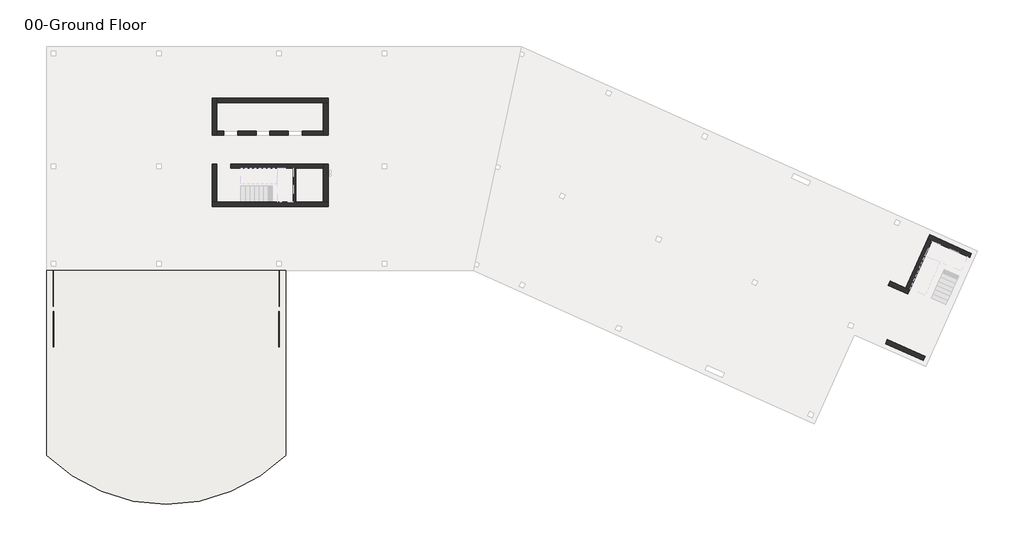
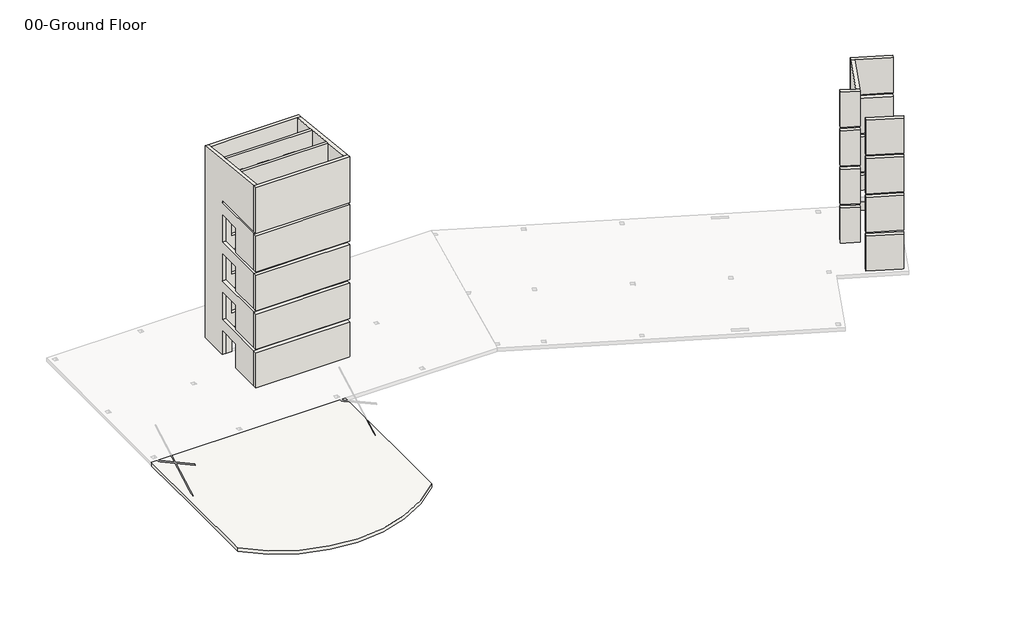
# One storey, part 1 of 2: 11 walls, 1 slab.
"""IFC4 building model written with IfcOpenShell, lengths in millimetres."""

from ifc_helpers import new_model, si_unit, frame, origin, origin_with_axes, place, context, project, spatial, polyline, circle_curve, outline, extrude, faceted_brep, element, save
from ifc_brep_helpers import plane_surface, cylinder_surface, advanced_brep

model = new_model("IFC4")

# Units and contexts
model_context = context("Model", 3, world=origin())
ifc_project = project(units=[si_unit("LENGTHUNIT", "METRE", prefix="MILLI")], contexts=[model_context])

# Site, building, storey
site = spatial("IfcSite", under=ifc_project)
building = spatial("IfcBuilding", under=site)
storey = spatial("IfcBuildingStorey", under=building, Name="00-Ground Floor", Elevation=0.0)

# Slab
placement = place(None, origin())
element("IfcSlab", 1, ObjectType="RC Slab 12\"", at=placement, inside=storey, context=model_context, shape_type="AdvancedBrep", body=[
    advanced_brep(
    [(15455.9, -26723.3402351, -304.8), (-457.2, -26723.3402351, -304.8), (-457.2, -20002.5, -304.8), (-457.2, -14452.6, -304.8), (15455.9, -14452.6, -304.8), (15455.9, -20002.5, -304.8), (15455.9, -26723.3402351, 0.0), (15455.9, -14452.6, 0.0), (-457.2, -14452.6, 0.0), (-457.2, -26723.3402351, 0.0)],
    [
        (0, 1, circle_curve(frame((7499.35, -18686.6508475, -304.8), z_axis=(0.0, 0.0, -1.0), x_axis=(1.0, 0.0, 0.0)), 11309.0699979)),
        (1, 2),
        (2, 3),
        (3, 4),
        (4, 5),
        (5, 0),
        (6, 7),
        (7, 8),
        (8, 9),
        (9, 6, circle_curve(frame((7499.35, -18686.6508475, 0.0), z_axis=(0.0, 0.0, 1.0), x_axis=(1.0, 0.0, 0.0)), 11309.0699979)),
        (1, 9),
        (8, 3),
        (7, 4),
        (6, 0),
    ],
    [
        plane_surface(frame((18808.4199979, -18686.6508475, -304.8), z_axis=(0.0, 0.0, -1.0), x_axis=(0.0, -1.0, 0.0))),
        plane_surface(frame((18808.4199979, -18686.6508475, 0.0), z_axis=(0.0, 0.0, 1.0), x_axis=(0.0, 1.0, 0.0))),
        plane_surface(frame((-457.2, -26723.3402351, -304.8), z_axis=(-1.0, 0.0, 0.0), x_axis=(0.0, 0.0, 1.0))),
        plane_surface(frame((-457.2, -14452.6, -304.8), z_axis=(0.0, 1.0, 0.0), x_axis=(0.0, 0.0, 1.0))),
        plane_surface(frame((15455.9, -14452.6, -304.8), z_axis=(1.0, 0.0, 0.0), x_axis=(0.0, 0.0, 1.0))),
        cylinder_surface(frame((7499.35, -18686.6508475, 0.0), z_axis=(0.0, 0.0, -1.0), x_axis=(1.0, 0.0, 0.0)), 11309.0699979),
    ],
    [
        (0, [[1, 2, 3, 4, 5, 6]]),
        (1, [[7, 8, 9, 10]]),
        (2, [[-3, -2, 11, -9, 12]]),
        (3, [[-4, -12, -8, 13]]),
        (4, [[-6, -5, -13, -7, 14]]),
        (5, [[-1, -14, -10, -11]]),
    ],
),
])

# Walls
element("IfcWall", 2, ObjectType="6\" Blockwork with render", at=placement, inside=storey, context=model_context, shape_type="SweptSolid", body=[
    extrude(outline(polyline([(16103.6, -7632.7), (16103.6, -9893.3), (15951.2, -9893.3), (15951.2, -7632.7), (16103.6, -7632.7)])), origin_with_axes(), (0.0, 0.0, 1.0), 3048.0),
])
element("IfcWall", 3, ObjectType="RC Wall 10\"", at=placement, inside=storey, context=model_context, shape_type="Brep", body=[
    faceted_brep([(17945.1, -5422.9, 16899.0824764), (10858.5, -5422.9, 16899.0824764), (10858.5, -5422.9, 13411.2), (10858.5, -5422.9, 13208.0), (10858.5, -5422.9, 12192.0), (10858.5, -5422.9, 10058.4), (10858.5, -5422.9, 9753.6), (10858.5, -5422.9, 8839.2), (10858.5, -5422.9, 6705.6), (10858.5, -5422.9, 6400.8), (10858.5, -5422.9, 5486.4), (10858.5, -5422.9, 3352.8), (10858.5, -5422.9, 3048.0), (10858.5, -5422.9, 2133.6), (10858.5, -5422.9, 0.0), (11328.4, -5422.9, 0.0), (11328.4, -5422.9, 2133.6), (12242.8, -5422.9, 2133.6), (12242.8, -5422.9, 0.0), (13474.7, -5422.9, 0.0), (13474.7, -5422.9, 2133.6), (14389.1, -5422.9, 2133.6), (14389.1, -5422.9, 0.0), (15608.3, -5422.9, 0.0), (15608.3, -5422.9, 2133.6), (16522.7, -5422.9, 2133.6), (16522.7, -5422.9, 0.0), (17945.1, -5422.9, 0.0), (17945.1, -5422.9, 2133.6), (17945.1, -5422.9, 3048.0), (17005.3, -5422.9, 3048.0), (17005.3, -5422.9, 3352.8), (17945.1, -5422.9, 3352.8), (17945.1, -5422.9, 5486.4), (17945.1, -5422.9, 6400.8), (17005.3, -5422.9, 6400.8), (17005.3, -5422.9, 6705.6), (17945.1, -5422.9, 6705.6), (17945.1, -5422.9, 8839.2), (17945.1, -5422.9, 9753.6), (17005.3, -5422.9, 9753.6), (17005.3, -5422.9, 10058.4), (17945.1, -5422.9, 10058.4), (17945.1, -5422.9, 12192.0), (17945.1, -5422.9, 13208.0), (17005.3, -5422.9, 13208.0), (17005.3, -5422.9, 13411.2), (17945.1, -5422.9, 13411.2), (17945.1, -5422.9, 15544.8), (15608.3, -5422.9, 3352.8), (15608.3, -5422.9, 5486.4), (16522.7, -5422.9, 5486.4), (16522.7, -5422.9, 3352.8), (13474.7, -5422.9, 3352.8), (13474.7, -5422.9, 5486.4), (14389.1, -5422.9, 5486.4), (14389.1, -5422.9, 3352.8), (11328.4, -5422.9, 3352.8), (11328.4, -5422.9, 5486.4), (12242.8, -5422.9, 5486.4), (12242.8, -5422.9, 3352.8), (15608.3, -5422.9, 6705.6), (15608.3, -5422.9, 8839.2), (16522.7, -5422.9, 8839.2), (16522.7, -5422.9, 6705.6), (13474.7, -5422.9, 6705.6), (13474.7, -5422.9, 8839.2), (14389.1, -5422.9, 8839.2), (14389.1, -5422.9, 6705.6), (11328.4, -5422.9, 6705.6), (11328.4, -5422.9, 8839.2), (12242.8, -5422.9, 8839.2), (12242.8, -5422.9, 6705.6), (15608.3, -5422.9, 10058.4), (15608.3, -5422.9, 12192.0), (16522.7, -5422.9, 12192.0), (16522.7, -5422.9, 10058.4), (13474.7, -5422.9, 10058.4), (13474.7, -5422.9, 12192.0), (14389.1, -5422.9, 12192.0), (14389.1, -5422.9, 10058.4), (11328.4, -5422.9, 10058.4), (11328.4, -5422.9, 12192.0), (12242.8, -5422.9, 12192.0), (12242.8, -5422.9, 10058.4), (15608.3, -5422.9, 13411.2), (15608.3, -5422.9, 15544.8), (16522.7, -5422.9, 15544.8), (16522.7, -5422.9, 13411.2), (13474.7, -5422.9, 13411.2), (13474.7, -5422.9, 15544.8), (14389.1, -5422.9, 15544.8), (14389.1, -5422.9, 13411.2), (11328.4, -5422.9, 13411.2), (11328.4, -5422.9, 15544.8), (12242.8, -5422.9, 15544.8), (12242.8, -5422.9, 13411.2), (10858.5, -5168.9, 0.0), (10858.5, -5168.9, 16872.3860006), (12738.1, -5168.9, 16872.3860006), (12992.1, -5168.9, 16872.3860006), (14871.7, -5168.9, 16872.3860006), (15125.7, -5168.9, 16872.3860006), (17945.1, -5168.9, 16872.3860006), (17945.1, -5168.9, 13411.2), (17005.3, -5168.9, 13411.2), (17005.3, -5168.9, 13208.0), (17945.1, -5168.9, 13208.0), (17945.1, -5168.9, 10058.4), (17005.3, -5168.9, 10058.4), (17005.3, -5168.9, 9753.6), (17945.1, -5168.9, 9753.6), (17945.1, -5168.9, 6705.6), (17005.3, -5168.9, 6705.6), (17005.3, -5168.9, 6400.8), (17945.1, -5168.9, 6400.8), (17945.1, -5168.9, 3352.8), (17005.3, -5168.9, 3352.8), (17005.3, -5168.9, 3048.0), (17945.1, -5168.9, 3048.0), (17945.1, -5168.9, 0.0), (16522.7, -5168.9, 0.0), (16522.7, -5168.9, 2133.6), (15608.3, -5168.9, 2133.6), (15608.3, -5168.9, 0.0), (15125.7, -5168.9, 0.0), (14871.7, -5168.9, 0.0), (14389.1, -5168.9, 0.0), (14389.1, -5168.9, 2133.6), (13474.7, -5168.9, 2133.6), (13474.7, -5168.9, 0.0), (12992.1, -5168.9, 0.0), (12738.1, -5168.9, 0.0), (12242.8, -5168.9, 0.0), (12242.8, -5168.9, 2133.6), (11328.4, -5168.9, 2133.6), (11328.4, -5168.9, 0.0), (15608.3, -5168.9, 5486.4), (15608.3, -5168.9, 3352.8), (16522.7, -5168.9, 3352.8), (16522.7, -5168.9, 5486.4), (13474.7, -5168.9, 5486.4), (13474.7, -5168.9, 3352.8), (14389.1, -5168.9, 3352.8), (14389.1, -5168.9, 5486.4), (11328.4, -5168.9, 5486.4), (11328.4, -5168.9, 3352.8), (12242.8, -5168.9, 3352.8), (12242.8, -5168.9, 5486.4), (15608.3, -5168.9, 8839.2), (15608.3, -5168.9, 6705.6), (16522.7, -5168.9, 6705.6), (16522.7, -5168.9, 8839.2), (13474.7, -5168.9, 8839.2), (13474.7, -5168.9, 6705.6), (14389.1, -5168.9, 6705.6), (14389.1, -5168.9, 8839.2), (11328.4, -5168.9, 8839.2), (11328.4, -5168.9, 6705.6), (12242.8, -5168.9, 6705.6), (12242.8, -5168.9, 8839.2), (15608.3, -5168.9, 12192.0), (15608.3, -5168.9, 10058.4), (16522.7, -5168.9, 10058.4), (16522.7, -5168.9, 12192.0), (13474.7, -5168.9, 12192.0), (13474.7, -5168.9, 10058.4), (14389.1, -5168.9, 10058.4), (14389.1, -5168.9, 12192.0), (11328.4, -5168.9, 12192.0), (11328.4, -5168.9, 10058.4), (12242.8, -5168.9, 10058.4), (12242.8, -5168.9, 12192.0), (15608.3, -5168.9, 15544.8), (15608.3, -5168.9, 13411.2), (16522.7, -5168.9, 13411.2), (16522.7, -5168.9, 15544.8), (13474.7, -5168.9, 15544.8), (13474.7, -5168.9, 13411.2), (14389.1, -5168.9, 13411.2), (14389.1, -5168.9, 15544.8), (11328.4, -5168.9, 15544.8), (11328.4, -5168.9, 13411.2), (12242.8, -5168.9, 13411.2), (12242.8, -5168.9, 15544.8)], [[[0, 1, 2, 3, 4, 5, 6, 7, 8, 9, 10, 11, 12, 13, 14, 15, 16, 17, 18, 19, 20, 21, 22, 23, 24, 25, 26, 27, 28, 29, 30, 31, 32, 33, 34, 35, 36, 37, 38, 39, 40, 41, 42, 43, 44, 45, 46, 47, 48], [49, 50, 51, 52], [53, 54, 55, 56], [57, 58, 59, 60], [61, 62, 63, 64], [65, 66, 67, 68], [69, 70, 71, 72], [73, 74, 75, 76], [77, 78, 79, 80], [81, 82, 83, 84], [85, 86, 87, 88], [89, 90, 91, 92], [93, 94, 95, 96]], [[97, 98, 99, 100, 101, 102, 103, 104, 105, 106, 107, 108, 109, 110, 111, 112, 113, 114, 115, 116, 117, 118, 119, 120, 121, 122, 123, 124, 125, 126, 127, 128, 129, 130, 131, 132, 133, 134, 135, 136], [137, 138, 139, 140], [141, 142, 143, 144], [145, 146, 147, 148], [149, 150, 151, 152], [153, 154, 155, 156], [157, 158, 159, 160], [161, 162, 163, 164], [165, 166, 167, 168], [169, 170, 171, 172], [173, 174, 175, 176], [177, 178, 179, 180], [181, 182, 183, 184]], [[14, 97, 136, 15]], [[120, 27, 26, 121]], [[18, 133, 132, 131, 130, 19]], [[22, 127, 126, 125, 124, 23]], [[98, 97, 14, 13, 12, 11, 10, 9, 8, 7, 6, 5, 4, 3, 2, 1]], [[27, 120, 119, 29, 28]], [[103, 0, 48, 47, 104]], [[107, 44, 43, 42, 108]], [[111, 39, 38, 37, 112]], [[115, 34, 33, 32, 116]], [[1, 0, 103, 102, 101, 100, 99, 98]], [[136, 135, 16, 15]], [[134, 133, 18, 17]], [[135, 134, 17, 16]], [[130, 129, 20, 19]], [[128, 127, 22, 21]], [[129, 128, 21, 20]], [[124, 123, 24, 23]], [[122, 121, 26, 25]], [[123, 122, 25, 24]], [[138, 137, 50, 49]], [[139, 138, 49, 52]], [[140, 139, 52, 51]], [[137, 140, 51, 50]], [[142, 141, 54, 53]], [[143, 142, 53, 56]], [[144, 143, 56, 55]], [[141, 144, 55, 54]], [[146, 145, 58, 57]], [[147, 146, 57, 60]], [[148, 147, 60, 59]], [[145, 148, 59, 58]], [[150, 149, 62, 61]], [[151, 150, 61, 64]], [[152, 151, 64, 63]], [[149, 152, 63, 62]], [[154, 153, 66, 65]], [[155, 154, 65, 68]], [[156, 155, 68, 67]], [[153, 156, 67, 66]], [[158, 157, 70, 69]], [[159, 158, 69, 72]], [[160, 159, 72, 71]], [[157, 160, 71, 70]], [[162, 161, 74, 73]], [[163, 162, 73, 76]], [[164, 163, 76, 75]], [[161, 164, 75, 74]], [[166, 165, 78, 77]], [[167, 166, 77, 80]], [[168, 167, 80, 79]], [[165, 168, 79, 78]], [[170, 169, 82, 81]], [[171, 170, 81, 84]], [[172, 171, 84, 83]], [[169, 172, 83, 82]], [[174, 173, 86, 85]], [[175, 174, 85, 88]], [[176, 175, 88, 87]], [[173, 176, 87, 86]], [[178, 177, 90, 89]], [[179, 178, 89, 92]], [[180, 179, 92, 91]], [[177, 180, 91, 90]], [[182, 181, 94, 93]], [[183, 182, 93, 96]], [[184, 183, 96, 95]], [[181, 184, 95, 94]], [[106, 45, 44, 107]], [[46, 105, 104, 47]], [[45, 106, 105, 46]], [[110, 40, 39, 111]], [[41, 109, 108, 42]], [[40, 110, 109, 41]], [[114, 35, 34, 115]], [[36, 113, 112, 37]], [[35, 114, 113, 36]], [[118, 30, 29, 119]], [[31, 117, 116, 32]], [[30, 118, 117, 31]]]),
])
element("IfcWall", 4, ObjectType="RC Wall 10\"", at=placement, inside=storey, context=model_context, shape_type="Brep", body=[
    faceted_brep([(17945.1, -7632.7, 17131.3418155), (10858.5, -7632.7, 17131.3418155), (10858.5, -7632.7, 15544.8), (11772.9, -7632.7, 15544.8), (11772.9, -7632.7, 13411.2), (15951.2, -7632.7, 13411.2), (16103.6, -7632.7, 13411.2), (17945.1, -7632.7, 13411.2), (10858.5, -7378.7, 17104.6453397), (17945.1, -7378.7, 17104.6453397), (17945.1, -7378.7, 15544.8), (17945.1, -7378.7, 13411.2), (11772.9, -7378.7, 13411.2), (11772.9, -7378.7, 15544.8), (10858.5, -7378.7, 15544.8)], [[[0, 1, 2, 3, 4, 5, 6, 7]], [[8, 9, 10, 11, 12, 13, 14]], [[1, 8, 14, 2]], [[9, 0, 7, 11, 10]], [[1, 0, 9, 8]], [[13, 12, 4, 3]], [[14, 13, 3, 2]], [[7, 6, 5, 4, 12, 11]]]),
    faceted_brep([(11772.9, -7632.7, 0.0), (15951.2, -7632.7, 0.0), (16103.6, -7632.7, 0.0), (17945.1, -7632.7, 0.0), (17945.1, -7632.7, 3048.0), (16103.6, -7632.7, 3048.0), (15951.2, -7632.7, 3048.0), (10858.5, -7632.7, 3048.0), (10858.5, -7632.7, 2133.6), (11772.9, -7632.7, 2133.6), (17945.1, -7378.7, 0.0), (11772.9, -7378.7, 0.0), (11772.9, -7378.7, 2133.6), (10858.5, -7378.7, 2133.6), (10858.5, -7378.7, 3048.0), (17945.1, -7378.7, 3048.0), (17945.1, -7378.7, 2133.6)], [[[0, 1, 2, 3, 4, 5, 6, 7, 8, 9]], [[10, 11, 12, 13, 14, 15, 16]], [[10, 3, 2, 1, 0, 11]], [[13, 8, 7, 14]], [[3, 10, 16, 15, 4]], [[9, 12, 11, 0]], [[12, 9, 8, 13]], [[7, 6, 5, 4, 15, 14]]]),
    faceted_brep([(11772.9, -7632.7, 5486.4), (11772.9, -7632.7, 3352.8), (15951.2, -7632.7, 3352.8), (16103.6, -7632.7, 3352.8), (17945.1, -7632.7, 3352.8), (17945.1, -7632.7, 6400.8), (16103.6, -7632.7, 6400.8), (15951.2, -7632.7, 6400.8), (10858.5, -7632.7, 6400.8), (10858.5, -7632.7, 5486.4), (11772.9, -7378.7, 3352.8), (11772.9, -7378.7, 5486.4), (10858.5, -7378.7, 5486.4), (10858.5, -7378.7, 6400.8), (17945.1, -7378.7, 6400.8), (17945.1, -7378.7, 5486.4), (17945.1, -7378.7, 3352.8)], [[[0, 1, 2, 3, 4, 5, 6, 7, 8, 9]], [[10, 11, 12, 13, 14, 15, 16]], [[12, 9, 8, 13]], [[4, 16, 15, 14, 5]], [[11, 10, 1, 0]], [[12, 11, 0, 9]], [[4, 3, 2, 1, 10, 16]], [[8, 7, 6, 5, 14, 13]]]),
    faceted_brep([(11772.9, -7632.7, 8839.2), (11772.9, -7632.7, 6705.6), (15951.2, -7632.7, 6705.6), (16103.6, -7632.7, 6705.6), (17945.1, -7632.7, 6705.6), (17945.1, -7632.7, 9753.6), (16103.6, -7632.7, 9753.6), (15951.2, -7632.7, 9753.6), (10858.5, -7632.7, 9753.6), (10858.5, -7632.7, 8839.2), (11772.9, -7378.7, 6705.6), (11772.9, -7378.7, 8839.2), (10858.5, -7378.7, 8839.2), (10858.5, -7378.7, 9753.6), (17945.1, -7378.7, 9753.6), (17945.1, -7378.7, 8839.2), (17945.1, -7378.7, 6705.6)], [[[0, 1, 2, 3, 4, 5, 6, 7, 8, 9]], [[10, 11, 12, 13, 14, 15, 16]], [[12, 9, 8, 13]], [[4, 16, 15, 14, 5]], [[11, 10, 1, 0]], [[12, 11, 0, 9]], [[4, 3, 2, 1, 10, 16]], [[8, 7, 6, 5, 14, 13]]]),
    faceted_brep([(11772.9, -7632.7, 12192.0), (11772.9, -7632.7, 10058.4), (15951.2, -7632.7, 10058.4), (16103.6, -7632.7, 10058.4), (17945.1, -7632.7, 10058.4), (17945.1, -7632.7, 13208.0), (16103.6, -7632.7, 13208.0), (15951.2, -7632.7, 13208.0), (10858.5, -7632.7, 13208.0), (10858.5, -7632.7, 12192.0), (11772.9, -7378.7, 10058.4), (11772.9, -7378.7, 12192.0), (10858.5, -7378.7, 12192.0), (10858.5, -7378.7, 13208.0), (17945.1, -7378.7, 13208.0), (17945.1, -7378.7, 12192.0), (17945.1, -7378.7, 10058.4)], [[[0, 1, 2, 3, 4, 5, 6, 7, 8, 9]], [[10, 11, 12, 13, 14, 15, 16]], [[12, 9, 8, 13]], [[14, 5, 4, 16, 15]], [[11, 10, 1, 0]], [[12, 11, 0, 9]], [[8, 7, 6, 5, 14, 13]], [[4, 3, 2, 1, 10, 16]]]),
])
element("IfcWall", 5, ObjectType="RC Wall 12\"", at=placement, inside=storey, context=model_context, shape_type="Brep", body=[
    faceted_brep([(18249.9, -9893.3, 0.0), (17945.1, -9893.3, 0.0), (16103.6, -9893.3, 0.0), (15951.2, -9893.3, 0.0), (10858.5, -9893.3, 0.0), (10553.7, -9893.3, 0.0), (10553.7, -9893.3, 3048.0), (10858.5, -9893.3, 3048.0), (12446.0, -9893.3, 3048.0), (15951.2, -9893.3, 3048.0), (16103.6, -9893.3, 3048.0), (17945.1, -9893.3, 3048.0), (18249.9, -9893.3, 3048.0), (10553.7, -10198.1, 0.0), (18249.9, -10198.1, 0.0), (18249.9, -10198.1, 3048.0), (10553.7, -10198.1, 3048.0)], [[[0, 1, 2, 3, 4, 5, 6, 7, 8, 9, 10, 11, 12]], [[13, 14, 15, 16]], [[5, 4, 3, 2, 1, 0, 14, 13]], [[5, 13, 16, 6]], [[14, 0, 12, 15]], [[8, 7, 6, 16, 15, 12, 11, 10, 9]]]),
    faceted_brep([(10553.7, -9893.3, 17368.9404497), (10858.5, -9893.3, 17368.9404497), (17945.1, -9893.3, 17368.9404497), (18249.9, -9893.3, 17368.9404497), (18249.9, -9893.3, 13411.2), (17945.1, -9893.3, 13411.2), (16103.6, -9893.3, 13411.2), (15951.2, -9893.3, 13411.2), (12446.0, -9893.3, 13411.2), (10858.5, -9893.3, 13411.2), (10553.7, -9893.3, 13411.2), (18249.9, -10198.1, 17400.9762206), (10553.7, -10198.1, 17400.9762206), (10553.7, -10198.1, 13411.2), (18249.9, -10198.1, 13411.2)], [[[0, 1, 2, 3, 4, 5, 6, 7, 8, 9, 10]], [[11, 12, 13, 14]], [[12, 0, 10, 13]], [[3, 11, 14, 4]], [[3, 2, 1, 0, 12, 11]], [[10, 9, 8, 7, 6, 5, 4, 14, 13]]]),
    faceted_brep([(10553.7, -9893.3, 13208.0), (10858.5, -9893.3, 13208.0), (12446.0, -9893.3, 13208.0), (15951.2, -9893.3, 13208.0), (16103.6, -9893.3, 13208.0), (17945.1, -9893.3, 13208.0), (18249.9, -9893.3, 13208.0), (18249.9, -9893.3, 10058.4), (17945.1, -9893.3, 10058.4), (16103.6, -9893.3, 10058.4), (15951.2, -9893.3, 10058.4), (12446.0, -9893.3, 10058.4), (10858.5, -9893.3, 10058.4), (10553.7, -9893.3, 10058.4), (18249.9, -10198.1, 13208.0), (10553.7, -10198.1, 13208.0), (10553.7, -10198.1, 10058.4), (18249.9, -10198.1, 10058.4)], [[[0, 1, 2, 3, 4, 5, 6, 7, 8, 9, 10, 11, 12, 13]], [[14, 15, 16, 17]], [[15, 0, 13, 16]], [[6, 14, 17, 7]], [[2, 1, 0, 15, 14, 6, 5, 4, 3]], [[13, 12, 11, 10, 9, 8, 7, 17, 16]]]),
    faceted_brep([(10553.7, -9893.3, 9753.6), (10858.5, -9893.3, 9753.6), (12446.0, -9893.3, 9753.6), (15951.2, -9893.3, 9753.6), (16103.6, -9893.3, 9753.6), (17945.1, -9893.3, 9753.6), (18249.9, -9893.3, 9753.6), (18249.9, -9893.3, 6705.6), (17945.1, -9893.3, 6705.6), (16103.6, -9893.3, 6705.6), (15951.2, -9893.3, 6705.6), (12446.0, -9893.3, 6705.6), (10858.5, -9893.3, 6705.6), (10553.7, -9893.3, 6705.6), (18249.9, -10198.1, 9753.6), (10553.7, -10198.1, 9753.6), (10553.7, -10198.1, 6705.6), (18249.9, -10198.1, 6705.6)], [[[0, 1, 2, 3, 4, 5, 6, 7, 8, 9, 10, 11, 12, 13]], [[14, 15, 16, 17]], [[15, 0, 13, 16]], [[6, 14, 17, 7]], [[2, 1, 0, 15, 14, 6, 5, 4, 3]], [[13, 12, 11, 10, 9, 8, 7, 17, 16]]]),
    faceted_brep([(10553.7, -9893.3, 6400.8), (10858.5, -9893.3, 6400.8), (12446.0, -9893.3, 6400.8), (15951.2, -9893.3, 6400.8), (16103.6, -9893.3, 6400.8), (17945.1, -9893.3, 6400.8), (18249.9, -9893.3, 6400.8), (18249.9, -9893.3, 3352.8), (17945.1, -9893.3, 3352.8), (16103.6, -9893.3, 3352.8), (15951.2, -9893.3, 3352.8), (12446.0, -9893.3, 3352.8), (10858.5, -9893.3, 3352.8), (10553.7, -9893.3, 3352.8), (18249.9, -10198.1, 6400.8), (10553.7, -10198.1, 6400.8), (10553.7, -10198.1, 3352.8), (18249.9, -10198.1, 3352.8)], [[[0, 1, 2, 3, 4, 5, 6, 7, 8, 9, 10, 11, 12, 13]], [[14, 15, 16, 17]], [[15, 0, 13, 16]], [[6, 14, 17, 7]], [[2, 1, 0, 15, 14, 6, 5, 4, 3]], [[13, 12, 11, 10, 9, 8, 7, 17, 16]]]),
])
element("IfcWall", 6, ObjectType="RC Wall 12\"", at=placement, inside=storey, context=model_context, shape_type="Brep", body=[
    faceted_brep([(10858.5, -2984.5, 16642.7963091), (10858.5, -3289.3, 16674.83208), (10858.5, -5168.9, 16872.3860006), (10858.5, -5422.9, 16899.0824764), (10858.5, -7378.7, 17104.6453397), (10858.5, -7632.7, 17131.3418155), (10858.5, -9893.3, 17368.9404497), (10858.5, -9893.3, 13411.2), (10858.5, -5422.9, 13411.2), (10858.5, -5422.9, 13208.0), (10858.5, -9893.3, 13208.0), (10858.5, -9893.3, 10058.4), (10858.5, -7378.7, 10058.4), (10858.5, -7378.7, 12192.0), (10858.5, -5422.9, 12192.0), (10858.5, -5422.9, 9753.6), (10858.5, -9893.3, 9753.6), (10858.5, -9893.3, 6705.6), (10858.5, -7378.7, 6705.6), (10858.5, -7378.7, 8839.2), (10858.5, -5422.9, 8839.2), (10858.5, -5422.9, 6400.8), (10858.5, -9893.3, 6400.8), (10858.5, -9893.3, 3352.8), (10858.5, -7378.7, 3352.8), (10858.5, -7378.7, 5486.4), (10858.5, -5422.9, 5486.4), (10858.5, -5422.9, 3048.0), (10858.5, -9893.3, 3048.0), (10858.5, -9893.3, 0.0), (10858.5, -7378.7, 0.0), (10858.5, -7378.7, 2133.6), (10858.5, -5422.9, 2133.6), (10858.5, -5422.9, 0.0), (10858.5, -5168.9, 0.0), (10858.5, -3289.3, 0.0), (10858.5, -2984.5, 0.0), (10858.5, -2984.5, 3048.0), (10858.5, -2984.5, 3352.8), (10858.5, -2984.5, 6400.8), (10858.5, -2984.5, 6705.6), (10858.5, -2984.5, 9753.6), (10858.5, -2984.5, 10058.4), (10553.7, -9893.3, 17368.9404497), (10553.7, -2984.5, 16642.7963091), (10553.7, -2984.5, 10058.4), (10553.7, -2984.5, 9753.6), (10553.7, -2984.5, 6705.6), (10553.7, -2984.5, 6400.8), (10553.7, -2984.5, 3352.8), (10553.7, -2984.5, 3048.0), (10553.7, -2984.5, 0.0), (10553.7, -5422.9, 0.0), (10553.7, -5422.9, 2133.6), (10553.7, -7378.7, 2133.6), (10553.7, -7378.7, 0.0), (10553.7, -9893.3, 0.0), (10553.7, -9893.3, 3048.0), (10553.7, -5422.9, 3048.0), (10553.7, -5422.9, 3352.8), (10553.7, -5422.9, 5486.4), (10553.7, -7378.7, 5486.4), (10553.7, -7378.7, 3352.8), (10553.7, -9893.3, 3352.8), (10553.7, -9893.3, 6400.8), (10553.7, -5422.9, 6400.8), (10553.7, -5422.9, 6705.6), (10553.7, -5422.9, 8839.2), (10553.7, -7378.7, 8839.2), (10553.7, -7378.7, 6705.6), (10553.7, -9893.3, 6705.6), (10553.7, -9893.3, 9753.6), (10553.7, -5422.9, 9753.6), (10553.7, -5422.9, 10058.4), (10553.7, -5422.9, 12192.0), (10553.7, -7378.7, 12192.0), (10553.7, -7378.7, 10058.4), (10553.7, -9893.3, 10058.4), (10553.7, -9893.3, 13208.0), (10553.7, -5422.9, 13208.0), (10553.7, -5422.9, 13411.2), (10553.7, -9893.3, 13411.2)], [[[0, 1, 2, 3, 4, 5, 6, 7, 8, 9, 10, 11, 12, 13, 14, 15, 16, 17, 18, 19, 20, 21, 22, 23, 24, 25, 26, 27, 28, 29, 30, 31, 32, 33, 34, 35, 36, 37, 38, 39, 40, 41, 42]], [[43, 44, 45, 46, 47, 48, 49, 50, 51, 52, 53, 54, 55, 56, 57, 58, 59, 60, 61, 62, 63, 64, 65, 66, 67, 68, 69, 70, 71, 72, 73, 74, 75, 76, 77, 78, 79, 80, 81]], [[29, 56, 55, 30]], [[51, 36, 35, 34, 33, 52]], [[56, 29, 28, 57]], [[6, 43, 81, 7]], [[10, 78, 77, 11]], [[16, 71, 70, 17]], [[22, 64, 63, 23]], [[36, 51, 50, 49, 48, 47, 46, 45, 44, 0, 42, 41, 40, 39, 38, 37]], [[6, 5, 4, 3, 2, 1, 0, 44, 43]], [[33, 32, 53, 52]], [[31, 30, 55, 54]], [[32, 31, 54, 53]], [[26, 60, 59, 58, 27]], [[25, 24, 62, 61]], [[26, 25, 61, 60]], [[20, 67, 66, 65, 21]], [[19, 18, 69, 68]], [[20, 19, 68, 67]], [[14, 74, 73, 72, 15]], [[13, 12, 76, 75]], [[14, 13, 75, 74]], [[9, 79, 78, 10]], [[80, 8, 7, 81]], [[79, 9, 8, 80]], [[15, 72, 71, 16]], [[12, 11, 77, 76]], [[21, 65, 64, 22]], [[18, 17, 70, 69]], [[27, 58, 57, 28]], [[24, 23, 63, 62]]]),
])
element("IfcWall", 7, ObjectType="RC Wall 12\"", at=placement, inside=storey, context=model_context, shape_type="Brep", body=[
    faceted_brep([(10858.5, -3289.3, 0.0), (12738.1, -3289.3, 0.0), (12992.1, -3289.3, 0.0), (14871.7, -3289.3, 0.0), (15125.7, -3289.3, 0.0), (17945.1, -3289.3, 0.0), (18249.9, -3289.3, 0.0), (18249.9, -3289.3, 3048.0), (17945.1, -3289.3, 3048.0), (17005.3, -3289.3, 3048.0), (17005.3, -3289.3, 3352.8), (17945.1, -3289.3, 3352.8), (18249.9, -3289.3, 3352.8), (18249.9, -3289.3, 6400.8), (17945.1, -3289.3, 6400.8), (17005.3, -3289.3, 6400.8), (17005.3, -3289.3, 6705.6), (17945.1, -3289.3, 6705.6), (18249.9, -3289.3, 6705.6), (18249.9, -3289.3, 9753.6), (17945.1, -3289.3, 9753.6), (17005.3, -3289.3, 9753.6), (17005.3, -3289.3, 10058.4), (17945.1, -3289.3, 10058.4), (18249.9, -3289.3, 10058.4), (18249.9, -3289.3, 13208.0), (17945.1, -3289.3, 13208.0), (17005.3, -3289.3, 13208.0), (17005.3, -3289.3, 13411.2), (17945.1, -3289.3, 13411.2), (18249.9, -3289.3, 13411.2), (18249.9, -3289.3, 16674.83208), (17945.1, -3289.3, 16674.83208), (15125.7, -3289.3, 16674.83208), (14871.7, -3289.3, 16674.83208), (12992.1, -3289.3, 16674.83208), (12738.1, -3289.3, 16674.83208), (10858.5, -3289.3, 16674.83208), (18249.9, -2984.5, 0.0), (10858.5, -2984.5, 0.0), (10858.5, -2984.5, 3048.0), (10858.5, -2984.5, 3352.8), (10858.5, -2984.5, 6400.8), (10858.5, -2984.5, 6705.6), (10858.5, -2984.5, 9753.6), (10858.5, -2984.5, 10058.4), (10858.5, -2984.5, 16642.7963091), (18249.9, -2984.5, 16642.7963091), (18249.9, -2984.5, 13411.2), (17005.3, -2984.5, 13411.2), (17005.3, -2984.5, 13208.0), (18249.9, -2984.5, 13208.0), (18249.9, -2984.5, 10058.4), (17005.3, -2984.5, 10058.4), (17005.3, -2984.5, 9753.6), (18249.9, -2984.5, 9753.6), (18249.9, -2984.5, 6705.6), (17005.3, -2984.5, 6705.6), (17005.3, -2984.5, 6400.8), (18249.9, -2984.5, 6400.8), (18249.9, -2984.5, 3352.8), (17005.3, -2984.5, 3352.8), (17005.3, -2984.5, 3048.0), (18249.9, -2984.5, 3048.0)], [[[0, 1, 2, 3, 4, 5, 6, 7, 8, 9, 10, 11, 12, 13, 14, 15, 16, 17, 18, 19, 20, 21, 22, 23, 24, 25, 26, 27, 28, 29, 30, 31, 32, 33, 34, 35, 36, 37]], [[38, 39, 40, 41, 42, 43, 44, 45, 46, 47, 48, 49, 50, 51, 52, 53, 54, 55, 56, 57, 58, 59, 60, 61, 62, 63]], [[6, 5, 4, 3, 2, 1, 0, 39, 38]], [[0, 37, 46, 45, 44, 43, 42, 41, 40, 39]], [[47, 31, 30, 48]], [[51, 25, 24, 52]], [[55, 19, 18, 56]], [[59, 13, 12, 60]], [[6, 38, 63, 7]], [[37, 36, 35, 34, 33, 32, 31, 47, 46]], [[50, 27, 26, 25, 51]], [[28, 49, 48, 30, 29]], [[27, 50, 49, 28]], [[54, 21, 20, 19, 55]], [[22, 53, 52, 24, 23]], [[21, 54, 53, 22]], [[58, 15, 14, 13, 59]], [[16, 57, 56, 18, 17]], [[15, 58, 57, 16]], [[62, 9, 8, 7, 63]], [[10, 61, 60, 12, 11]], [[9, 62, 61, 10]]]),
])
element("IfcWall", 8, ObjectType="RC Wall 12\"", at=placement, inside=storey, context=model_context, shape_type="Brep", body=[
    faceted_brep([(17945.1, -9893.3, 17368.9404497), (17945.1, -7632.7, 17131.3418155), (17945.1, -7378.7, 17104.6453397), (17945.1, -5422.9, 16899.0824764), (17945.1, -5168.9, 16872.3860006), (17945.1, -3289.3, 16674.83208), (17945.1, -3289.3, 13411.2), (17945.1, -5422.9, 13411.2), (17945.1, -5422.9, 15544.8), (17945.1, -7378.7, 15544.8), (17945.1, -7378.7, 13411.2), (17945.1, -9893.3, 13411.2), (18249.9, -3289.3, 16674.83208), (18249.9, -9893.3, 17368.9404497), (18249.9, -9893.3, 13411.2), (18249.9, -7378.7, 13411.2), (18249.9, -7378.7, 15544.8), (18249.9, -5422.9, 15544.8), (18249.9, -5422.9, 13411.2), (18249.9, -3289.3, 13411.2)], [[[0, 1, 2, 3, 4, 5, 6, 7, 8, 9, 10, 11]], [[12, 13, 14, 15, 16, 17, 18, 19]], [[13, 0, 11, 14]], [[5, 12, 19, 6]], [[5, 4, 3, 2, 1, 0, 13, 12]], [[11, 10, 15, 14]], [[19, 18, 7, 6]], [[18, 17, 8, 7]], [[16, 15, 10, 9]], [[17, 16, 9, 8]]]),
    faceted_brep([(17945.1, -5422.9, 0.0), (17945.1, -5422.9, 2133.6), (17945.1, -7378.7, 2133.6), (17945.1, -7378.7, 0.0), (17945.1, -7632.7, 0.0), (17945.1, -9893.3, 0.0), (17945.1, -9893.3, 3048.0), (17945.1, -3289.3, 3048.0), (17945.1, -3289.3, 0.0), (17945.1, -5168.9, 0.0), (18249.9, -5422.9, 2133.6), (18249.9, -5422.9, 0.0), (18249.9, -3289.3, 0.0), (18249.9, -3289.3, 3048.0), (18249.9, -9893.3, 3048.0), (18249.9, -9893.3, 0.0), (18249.9, -7378.7, 0.0), (18249.9, -7378.7, 2133.6)], [[[0, 1, 2, 3, 4, 5, 6, 7, 8, 9]], [[10, 11, 12, 13, 14, 15, 16, 17]], [[8, 12, 11, 0, 9]], [[15, 5, 4, 3, 16]], [[5, 15, 14, 6]], [[12, 8, 7, 13]], [[11, 10, 1, 0]], [[17, 16, 3, 2]], [[10, 17, 2, 1]], [[7, 6, 14, 13]]]),
    faceted_brep([(17945.1, -5422.9, 3352.8), (17945.1, -5422.9, 5486.4), (17945.1, -7378.7, 5486.4), (17945.1, -7378.7, 3352.8), (17945.1, -9893.3, 3352.8), (17945.1, -9893.3, 6400.8), (17945.1, -3289.3, 6400.8), (17945.1, -3289.3, 3352.8), (18249.9, -5422.9, 5486.4), (18249.9, -5422.9, 3352.8), (18249.9, -3289.3, 3352.8), (18249.9, -3289.3, 6400.8), (18249.9, -9893.3, 6400.8), (18249.9, -9893.3, 3352.8), (18249.9, -7378.7, 3352.8), (18249.9, -7378.7, 5486.4)], [[[0, 1, 2, 3, 4, 5, 6, 7]], [[8, 9, 10, 11, 12, 13, 14, 15]], [[12, 5, 4, 13]], [[6, 11, 10, 7]], [[9, 8, 1, 0]], [[15, 14, 3, 2]], [[8, 15, 2, 1]], [[6, 5, 12, 11]], [[4, 3, 14, 13]], [[0, 7, 10, 9]]]),
    faceted_brep([(17945.1, -5422.9, 6705.6), (17945.1, -5422.9, 8839.2), (17945.1, -7378.7, 8839.2), (17945.1, -7378.7, 6705.6), (17945.1, -9893.3, 6705.6), (17945.1, -9893.3, 9753.6), (17945.1, -3289.3, 9753.6), (17945.1, -3289.3, 6705.6), (18249.9, -5422.9, 8839.2), (18249.9, -5422.9, 6705.6), (18249.9, -3289.3, 6705.6), (18249.9, -3289.3, 9753.6), (18249.9, -9893.3, 9753.6), (18249.9, -9893.3, 6705.6), (18249.9, -7378.7, 6705.6), (18249.9, -7378.7, 8839.2)], [[[0, 1, 2, 3, 4, 5, 6, 7]], [[8, 9, 10, 11, 12, 13, 14, 15]], [[12, 5, 4, 13]], [[6, 11, 10, 7]], [[9, 8, 1, 0]], [[15, 14, 3, 2]], [[8, 15, 2, 1]], [[6, 5, 12, 11]], [[4, 3, 14, 13]], [[0, 7, 10, 9]]]),
    faceted_brep([(17945.1, -5422.9, 10058.4), (17945.1, -5422.9, 12192.0), (17945.1, -7378.7, 12192.0), (17945.1, -7378.7, 10058.4), (17945.1, -9893.3, 10058.4), (17945.1, -9893.3, 13208.0), (17945.1, -3289.3, 13208.0), (17945.1, -3289.3, 10058.4), (18249.9, -5422.9, 12192.0), (18249.9, -5422.9, 10058.4), (18249.9, -3289.3, 10058.4), (18249.9, -3289.3, 13208.0), (18249.9, -9893.3, 13208.0), (18249.9, -9893.3, 10058.4), (18249.9, -7378.7, 10058.4), (18249.9, -7378.7, 12192.0)], [[[0, 1, 2, 3, 4, 5, 6, 7]], [[8, 9, 10, 11, 12, 13, 14, 15]], [[12, 5, 4, 13]], [[6, 11, 10, 7]], [[9, 8, 1, 0]], [[15, 14, 3, 2]], [[8, 15, 2, 1]], [[6, 5, 12, 11]], [[4, 3, 14, 13]], [[0, 7, 10, 9]]]),
])
element("IfcWall", 9, ObjectType="RC Wall 12\"", at=placement, inside=storey, context=model_context, shape_type="Brep", body=[
    faceted_brep([(55480.1253608, -15435.8210954, 0.0), (56785.8662551, -16022.3571121, 0.0), (56785.8662551, -16022.3571121, 3048.0), (55480.1253608, -15435.8210954, 3048.0), (56910.7599136, -15744.3200389, 0.0), (56632.7228404, -15619.4263804, 0.0), (55605.0190193, -15157.7840222, 0.0), (55605.0190193, -15157.7840222, 3048.0), (56632.7228404, -15619.4263804, 3048.0), (56910.7599136, -15744.3200389, 3048.0)], [[[0, 1, 2, 3]], [[4, 5, 6, 7, 8, 9]], [[1, 0, 6, 5, 4]], [[6, 0, 3, 7]], [[1, 4, 9, 2]], [[3, 2, 9, 8, 7]]]),
    faceted_brep([(56785.8662551, -16022.3571121, 13106.4), (55480.1253608, -15435.8210954, 13106.4), (55480.1253608, -15435.8210954, 10058.4), (56785.8662551, -16022.3571121, 10058.4), (55605.0190193, -15157.7840222, 13106.4), (56632.7228404, -15619.4263804, 13106.4), (56910.7599136, -15744.3200389, 13106.4), (56910.7599136, -15744.3200389, 10058.4), (56632.7228404, -15619.4263804, 10058.4), (55605.0190193, -15157.7840222, 10058.4)], [[[0, 1, 2, 3]], [[4, 5, 6, 7, 8, 9]], [[1, 4, 9, 2]], [[6, 0, 3, 7]], [[1, 0, 6, 5, 4]], [[3, 2, 9, 8, 7]]]),
    faceted_brep([(56785.8662551, -16022.3571121, 9753.6), (55480.1253608, -15435.8210954, 9753.6), (55480.1253608, -15435.8210954, 6705.6), (56785.8662551, -16022.3571121, 6705.6), (55605.0190193, -15157.7840222, 9753.6), (56632.7228404, -15619.4263804, 9753.6), (56910.7599136, -15744.3200389, 9753.6), (56910.7599136, -15744.3200389, 6705.6), (56632.7228404, -15619.4263804, 6705.6), (55605.0190193, -15157.7840222, 6705.6)], [[[0, 1, 2, 3]], [[4, 5, 6, 7, 8, 9]], [[1, 4, 9, 2]], [[6, 0, 3, 7]], [[1, 0, 6, 5, 4]], [[3, 2, 9, 8, 7]]]),
    faceted_brep([(56785.8662551, -16022.3571121, 6400.8), (55480.1253608, -15435.8210954, 6400.8), (55480.1253608, -15435.8210954, 3352.8), (56785.8662551, -16022.3571121, 3352.8), (55605.0190193, -15157.7840222, 6400.8), (56632.7228404, -15619.4263804, 6400.8), (56910.7599136, -15744.3200389, 6400.8), (56910.7599136, -15744.3200389, 3352.8), (56632.7228404, -15619.4263804, 3352.8), (55605.0190193, -15157.7840222, 3352.8)], [[[0, 1, 2, 3]], [[4, 5, 6, 7, 8, 9]], [[1, 4, 9, 2]], [[6, 0, 3, 7]], [[1, 0, 6, 5, 4]], [[3, 2, 9, 8, 7]]]),
])
element("IfcWall", 10, ObjectType="RC Wall 12\"", at=placement, inside=storey, context=model_context, shape_type="Brep", body=[
    faceted_brep([(56910.7599136, -15744.3200389, 0.0), (58382.896579, -12467.0634146, 0.0), (58382.896579, -12467.0634146, 3048.0), (56946.6195059, -15664.4897561, 3048.0), (56910.7599136, -15744.3200389, 3048.0), (58104.8595059, -12342.1697561, 0.0), (56632.7228404, -15619.4263804, 0.0), (56632.7228404, -15619.4263804, 3048.0), (58104.8595059, -12342.1697561, 3048.0)], [[[0, 1, 2, 3, 4]], [[5, 6, 7, 8]], [[1, 0, 6, 5]], [[6, 0, 4, 7]], [[3, 2, 8, 7, 4]], [[1, 5, 8, 2]]]),
    faceted_brep([(56946.6195059, -15664.4897561, 6705.6), (58382.896579, -12467.0634146, 6705.6), (58382.896579, -12467.0634146, 9753.6), (56946.6195059, -15664.4897561, 9753.6), (56910.7599136, -15744.3200389, 9753.6), (56910.7599136, -15744.3200389, 6705.6), (58104.8595059, -12342.1697561, 6705.6), (56632.7228404, -15619.4263804, 6705.6), (56632.7228404, -15619.4263804, 9753.6), (58104.8595059, -12342.1697561, 9753.6)], [[[0, 1, 2, 3, 4, 5]], [[6, 7, 8, 9]], [[7, 5, 4, 8]], [[1, 0, 5, 7, 6]], [[1, 6, 9, 2]], [[4, 3, 2, 9, 8]]]),
    faceted_brep([(58382.896579, -12467.0634146, 6400.8), (56946.6195059, -15664.4897561, 6400.8), (56910.7599136, -15744.3200389, 6400.8), (56910.7599136, -15744.3200389, 3352.8), (56946.6195059, -15664.4897561, 3352.8), (58382.896579, -12467.0634146, 3352.8), (56632.7228404, -15619.4263804, 6400.8), (58104.8595059, -12342.1697561, 6400.8), (58104.8595059, -12342.1697561, 3352.8), (56632.7228404, -15619.4263804, 3352.8)], [[[0, 1, 2, 3, 4, 5]], [[6, 7, 8, 9]], [[2, 6, 9, 3]], [[1, 0, 7, 6, 2]], [[5, 4, 3, 9, 8]], [[7, 0, 5, 8]]]),
    faceted_brep([(58382.896579, -12467.0634146, 13106.4), (56946.6195059, -15664.4897561, 13106.4), (56910.7599136, -15744.3200389, 13106.4), (56910.7599136, -15744.3200389, 10058.4), (56946.6195059, -15664.4897561, 10058.4), (58382.896579, -12467.0634146, 10058.4), (56632.7228404, -15619.4263804, 13106.4), (58104.8595059, -12342.1697561, 13106.4), (58104.8595059, -12342.1697561, 10058.4), (56632.7228404, -15619.4263804, 10058.4)], [[[0, 1, 2, 3, 4, 5]], [[6, 7, 8, 9]], [[2, 6, 9, 3]], [[1, 0, 7, 6, 2]], [[7, 0, 5, 8]], [[4, 3, 9, 8, 5]]]),
])
element("IfcWall", 11, ObjectType="RC Wall 12\"", at=placement, inside=storey, context=model_context, shape_type="SweptSolid", body=[
    extrude(outline(polyline([(57809.7238961, -20437.7692683), (55307.3902376, -19313.7263415), (55432.2838961, -19035.6892683), (57934.6175546, -20159.7321951), (57809.7238961, -20437.7692683)])), origin_with_axes(), (0.0, 0.0, 1.0), 3048.0),
    extrude(outline(polyline([(57809.7238961, -20437.7692683), (55307.3902376, -19313.7263415), (55432.2838961, -19035.6892683), (57934.6175546, -20159.7321951), (57809.7238961, -20437.7692683)])), frame((0.0, 0.0, 10058.4), z_axis=(0.0, 0.0, 1.0), x_axis=(1.0, 0.0, 0.0)), (0.0, 0.0, 1.0), 3048.0),
    extrude(outline(polyline([(57809.7238961, -20437.7692683), (55307.3902376, -19313.7263415), (55432.2838961, -19035.6892683), (57934.6175546, -20159.7321951), (57809.7238961, -20437.7692683)])), frame((0.0, 0.0, 6705.6), z_axis=(0.0, 0.0, 1.0), x_axis=(1.0, 0.0, 0.0)), (0.0, 0.0, 1.0), 3048.0),
    extrude(outline(polyline([(57809.7238961, -20437.7692683), (55307.3902376, -19313.7263415), (55432.2838961, -19035.6892683), (57934.6175546, -20159.7321951), (57809.7238961, -20437.7692683)])), frame((0.0, 0.0, 3352.8), z_axis=(0.0, 0.0, 1.0), x_axis=(1.0, 0.0, 0.0)), (0.0, 0.0, 1.0), 3048.0),
])
element("IfcWall", 12, ObjectType="RC Wall 12\"", at=placement, inside=storey, context=model_context, shape_type="Brep", body=[
    faceted_brep([(58104.8595059, -12342.1697561, 0.0), (58382.896579, -12467.0634146, 0.0), (60885.2302376, -13591.1063415, 0.0), (60885.2302376, -13591.1063415, 3048.0), (60746.211701, -13528.6595122, 3048.0), (58382.896579, -12467.0634146, 3048.0), (58104.8595059, -12342.1697561, 3048.0), (61010.1238961, -13313.0692683, 0.0), (58229.7531644, -12064.1326829, 0.0), (58229.7531644, -12064.1326829, 3048.0), (61010.1238961, -13313.0692683, 3048.0)], [[[0, 1, 2, 3, 4, 5, 6]], [[7, 8, 9, 10]], [[2, 1, 0, 8, 7]], [[2, 7, 10, 3]], [[8, 0, 6, 9]], [[4, 3, 10, 9, 6, 5]]]),
    faceted_brep([(60885.2302376, -13591.1063415, 9753.6), (60746.211701, -13528.6595122, 9753.6), (58382.896579, -12467.0634146, 9753.6), (58104.8595059, -12342.1697561, 9753.6), (58104.8595059, -12342.1697561, 6705.6), (58382.896579, -12467.0634146, 6705.6), (60746.211701, -13528.6595122, 6705.6), (60885.2302376, -13591.1063415, 6705.6), (58229.7531644, -12064.1326829, 9753.6), (61010.1238961, -13313.0692683, 9753.6), (61010.1238961, -13313.0692683, 6705.6), (58229.7531644, -12064.1326829, 6705.6)], [[[0, 1, 2, 3, 4, 5, 6, 7]], [[8, 9, 10, 11]], [[9, 0, 7, 10]], [[3, 8, 11, 4]], [[1, 0, 9, 8, 3, 2]], [[7, 6, 5, 4, 11, 10]]]),
    faceted_brep([(60746.211701, -13528.6595122, 10058.4), (60885.2302376, -13591.1063415, 10058.4), (60885.2302376, -13591.1063415, 13106.4), (60746.211701, -13528.6595122, 13106.4), (58382.896579, -12467.0634146, 13106.4), (58104.8595059, -12342.1697561, 13106.4), (58104.8595059, -12342.1697561, 10058.4), (58382.896579, -12467.0634146, 10058.4), (61010.1238961, -13313.0692683, 10058.4), (58229.7531644, -12064.1326829, 10058.4), (58229.7531644, -12064.1326829, 13106.4), (61010.1238961, -13313.0692683, 13106.4)], [[[0, 1, 2, 3, 4, 5, 6, 7]], [[8, 9, 10, 11]], [[1, 8, 11, 2]], [[9, 6, 5, 10]], [[1, 0, 7, 6, 9, 8]], [[5, 4, 3, 2, 11, 10]]]),
    faceted_brep([(60885.2302376, -13591.1063415, 6400.8), (60746.211701, -13528.6595122, 6400.8), (58382.896579, -12467.0634146, 6400.8), (58104.8595059, -12342.1697561, 6400.8), (58104.8595059, -12342.1697561, 3352.8), (58382.896579, -12467.0634146, 3352.8), (60746.211701, -13528.6595122, 3352.8), (60885.2302376, -13591.1063415, 3352.8), (58229.7531644, -12064.1326829, 6400.8), (61010.1238961, -13313.0692683, 6400.8), (61010.1238961, -13313.0692683, 3352.8), (58229.7531644, -12064.1326829, 3352.8)], [[[0, 1, 2, 3, 4, 5, 6, 7]], [[8, 9, 10, 11]], [[9, 0, 7, 10]], [[3, 8, 11, 4]], [[1, 0, 9, 8, 3, 2]], [[7, 6, 5, 4, 11, 10]]]),
])

save(model, "model.ifc")
